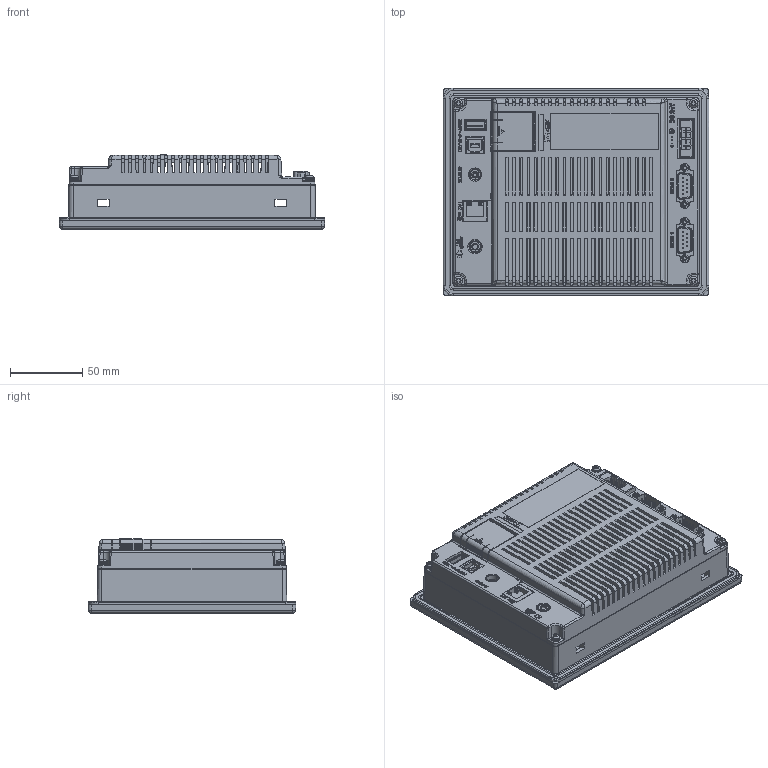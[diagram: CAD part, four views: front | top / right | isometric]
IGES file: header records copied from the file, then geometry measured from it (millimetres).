
Start section:  PTC IGES file: dop-b07E515.igs
Global section: file name: dop-b07E515.igs; native system: Pro/ENGINEER by Parametric Technology Corporation; preprocessor: 2008230; author: EDISON.TANG; organization: Unknown; date: 20101015.152123; units: millimetre
Bounding box: 184.1 x 144.1 x 51.4 mm (x, y, z)
Volume: 130947.8 mm3; surface area: 212548.2 mm2
Topology: 18 solids, 20 shells, 4117 faces, 11728 edges, 8367 vertices
Faces by surface type: bspline 2450, revolution 1342, extrusion 325
